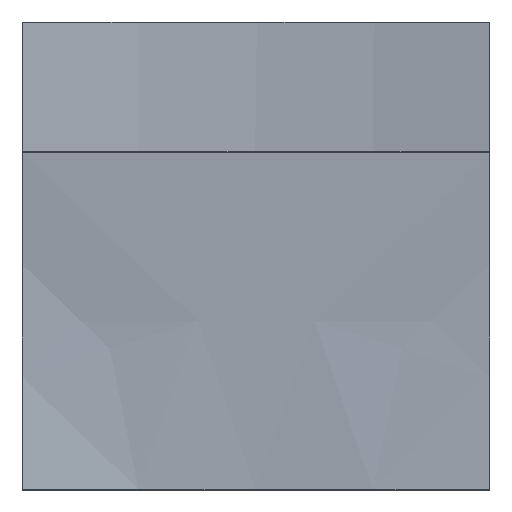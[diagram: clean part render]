
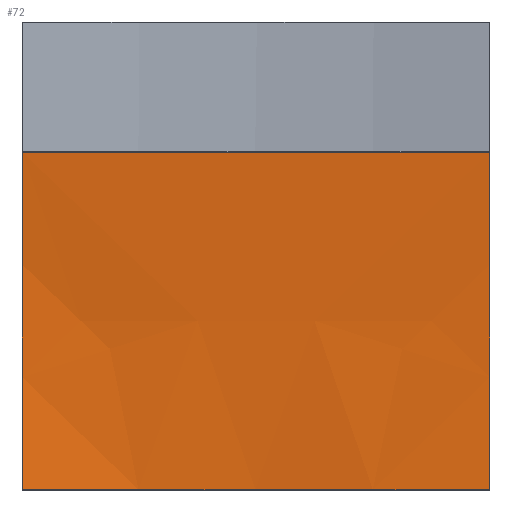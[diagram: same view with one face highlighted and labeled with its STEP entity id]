
A CAD part, top view. The second image highlights one B-rep face of the part: STEP entity #72.
In plain terms, the highlighted free-form (B-spline) face has degree [3, 3] with [5, 11] control points.
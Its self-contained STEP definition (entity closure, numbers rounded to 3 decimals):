
#11=B_SPLINE_CURVE_WITH_KNOTS('',3,(#696,#697,#698,#699,#700),
 .UNSPECIFIED.,.F.,.F.,(4,1,4),(0.,390.512,781.025),
 .UNSPECIFIED.);
#12=B_SPLINE_CURVE_WITH_KNOTS('',3,(#701,#702,#703,#704,#705,#706,#707,
#708,#709,#710,#711),.UNSPECIFIED.,.F.,.F.,(4,2,1,1,1,2,4),(-1081.967,
-811.475,-676.23,-540.984,-405.738,
-270.492,0.),.UNSPECIFIED.);
#13=B_SPLINE_CURVE_WITH_KNOTS('',3,(#712,#713,#714,#715,#716),
 .UNSPECIFIED.,.F.,.F.,(4,1,4),(-781.025,-390.512,0.),
 .UNSPECIFIED.);
#21=B_SPLINE_CURVE_WITH_KNOTS('',1,(#731,#732),.UNSPECIFIED.,.F.,.F.,(2,
2),(0.,1080.),.UNSPECIFIED.);
#35=B_SPLINE_SURFACE_WITH_KNOTS('',3,3,((#628,#629,#630,#631,#632,#633,
#634,#635,#636,#637,#638),(#639,#640,#641,#642,#643,#644,#645,#646,#647,
#648,#649),(#650,#651,#652,#653,#654,#655,#656,#657,#658,#659,#660),(#661,
#662,#663,#664,#665,#666,#667,#668,#669,#670,#671),(#672,#673,#674,#675,
#676,#677,#678,#679,#680,#681,#682)),.UNSPECIFIED.,.F.,.F.,.F.,(4,1,4),
(4,2,1,1,1,2,4),(0.,390.512,781.025),(0.,270.492,
405.738,540.984,676.23,811.475,1081.967),
 .UNSPECIFIED.);
#72=ADVANCED_FACE('',(#100),#35,.T.);
#100=FACE_OUTER_BOUND('',#128,.T.);
#128=EDGE_LOOP('',(#188,#189,#190,#191));
#188=ORIENTED_EDGE('',*,*,#262,.F.);
#189=ORIENTED_EDGE('',*,*,#261,.F.);
#190=ORIENTED_EDGE('',*,*,#260,.F.);
#191=ORIENTED_EDGE('',*,*,#270,.F.);
#260=EDGE_CURVE('',#325,#326,#11,.T.);
#261=EDGE_CURVE('',#326,#327,#12,.T.);
#262=EDGE_CURVE('',#327,#324,#13,.T.);
#270=EDGE_CURVE('',#324,#325,#21,.T.);
#324=VERTEX_POINT('',#688);
#325=VERTEX_POINT('',#689);
#326=VERTEX_POINT('',#690);
#327=VERTEX_POINT('',#691);
#628=CARTESIAN_POINT('',(0.,-3150.611,420.));
#629=CARTESIAN_POINT('',(77.5,-3150.611,420.));
#630=CARTESIAN_POINT('',(155.,-3150.611,420.));
#631=CARTESIAN_POINT('',(271.25,-3150.611,420.));
#632=CARTESIAN_POINT('',(348.75,-3150.611,420.));
#633=CARTESIAN_POINT('',(465.,-3150.611,420.));
#634=CARTESIAN_POINT('',(581.25,-3150.611,420.));
#635=CARTESIAN_POINT('',(658.75,-3150.611,420.));
#636=CARTESIAN_POINT('',(775.,-3150.611,420.));
#637=CARTESIAN_POINT('',(852.5,-3150.611,420.));
#638=CARTESIAN_POINT('',(930.,-3150.611,420.));
#639=CARTESIAN_POINT('',(0.,-3262.118,406.719));
#640=CARTESIAN_POINT('',(77.554,-3261.91,404.522));
#641=CARTESIAN_POINT('',(155.132,-3261.939,406.183));
#642=CARTESIAN_POINT('',(271.344,-3262.204,409.488));
#643=CARTESIAN_POINT('',(348.765,-3262.424,411.963));
#644=CARTESIAN_POINT('',(465.,-3262.622,414.019));
#645=CARTESIAN_POINT('',(581.235,-3262.424,411.963));
#646=CARTESIAN_POINT('',(658.656,-3262.204,409.488));
#647=CARTESIAN_POINT('',(774.868,-3261.939,406.183));
#648=CARTESIAN_POINT('',(852.446,-3261.91,404.522));
#649=CARTESIAN_POINT('',(930.,-3262.118,406.719));
#650=CARTESIAN_POINT('',(0.,-3486.445,393.281));
#651=CARTESIAN_POINT('',(77.516,-3486.026,386.662));
#652=CARTESIAN_POINT('',(155.148,-3485.864,388.351));
#653=CARTESIAN_POINT('',(271.34,-3486.067,393.355));
#654=CARTESIAN_POINT('',(348.71,-3486.289,397.514));
#655=CARTESIAN_POINT('',(465.,-3486.523,401.243));
#656=CARTESIAN_POINT('',(581.29,-3486.289,397.514));
#657=CARTESIAN_POINT('',(658.659,-3486.067,393.355));
#658=CARTESIAN_POINT('',(774.851,-3485.864,388.351));
#659=CARTESIAN_POINT('',(852.484,-3486.026,386.662));
#660=CARTESIAN_POINT('',(930.,-3486.445,393.281));
#661=CARTESIAN_POINT('',(0.,-3710.771,406.719));
#662=CARTESIAN_POINT('',(77.181,-3710.563,395.678));
#663=CARTESIAN_POINT('',(154.663,-3710.373,390.668));
#664=CARTESIAN_POINT('',(270.945,-3710.31,387.29));
#665=CARTESIAN_POINT('',(348.483,-3710.311,386.417));
#666=CARTESIAN_POINT('',(465.,-3710.345,386.791));
#667=CARTESIAN_POINT('',(581.517,-3710.311,386.417));
#668=CARTESIAN_POINT('',(659.055,-3710.31,387.29));
#669=CARTESIAN_POINT('',(775.336,-3710.373,390.668));
#670=CARTESIAN_POINT('',(852.819,-3710.563,395.679));
#671=CARTESIAN_POINT('',(930.,-3710.771,406.719));
#672=CARTESIAN_POINT('',(0.,-3822.278,420.));
#673=CARTESIAN_POINT('',(76.942,-3822.278,406.763));
#674=CARTESIAN_POINT('',(154.299,-3822.278,396.765));
#675=CARTESIAN_POINT('',(270.652,-3822.278,386.729));
#676=CARTESIAN_POINT('',(348.327,-3822.278,381.692));
#677=CARTESIAN_POINT('',(465.,-3822.278,379.154));
#678=CARTESIAN_POINT('',(581.673,-3822.278,381.692));
#679=CARTESIAN_POINT('',(659.348,-3822.278,386.729));
#680=CARTESIAN_POINT('',(775.7,-3822.278,396.765));
#681=CARTESIAN_POINT('',(853.059,-3822.278,406.763));
#682=CARTESIAN_POINT('',(930.,-3822.278,420.));
#688=CARTESIAN_POINT('',(0.,-3150.611,420.));
#689=CARTESIAN_POINT('',(930.,-3150.611,420.));
#690=CARTESIAN_POINT('',(930.,-3822.278,420.));
#691=CARTESIAN_POINT('',(0.,-3822.278,420.));
#696=CARTESIAN_POINT('',(930.,-3150.611,420.));
#697=CARTESIAN_POINT('',(930.,-3262.118,406.719));
#698=CARTESIAN_POINT('',(930.,-3486.445,393.281));
#699=CARTESIAN_POINT('',(930.,-3710.771,406.719));
#700=CARTESIAN_POINT('',(930.,-3822.278,420.));
#701=CARTESIAN_POINT('',(930.,-3822.278,420.));
#702=CARTESIAN_POINT('',(853.059,-3822.278,406.763));
#703=CARTESIAN_POINT('',(775.7,-3822.278,396.765));
#704=CARTESIAN_POINT('',(659.348,-3822.278,386.729));
#705=CARTESIAN_POINT('',(581.673,-3822.278,381.692));
#706=CARTESIAN_POINT('',(465.,-3822.278,379.154));
#707=CARTESIAN_POINT('',(348.327,-3822.278,381.692));
#708=CARTESIAN_POINT('',(270.652,-3822.278,386.729));
#709=CARTESIAN_POINT('',(154.299,-3822.278,396.765));
#710=CARTESIAN_POINT('',(76.942,-3822.278,406.763));
#711=CARTESIAN_POINT('',(0.,-3822.278,420.));
#712=CARTESIAN_POINT('',(0.,-3822.278,420.));
#713=CARTESIAN_POINT('',(0.,-3710.771,406.719));
#714=CARTESIAN_POINT('',(0.,-3486.445,393.281));
#715=CARTESIAN_POINT('',(0.,-3262.118,406.719));
#716=CARTESIAN_POINT('',(0.,-3150.611,420.));
#731=CARTESIAN_POINT('',(0.,-3150.611,420.));
#732=CARTESIAN_POINT('',(930.,-3150.611,420.));
